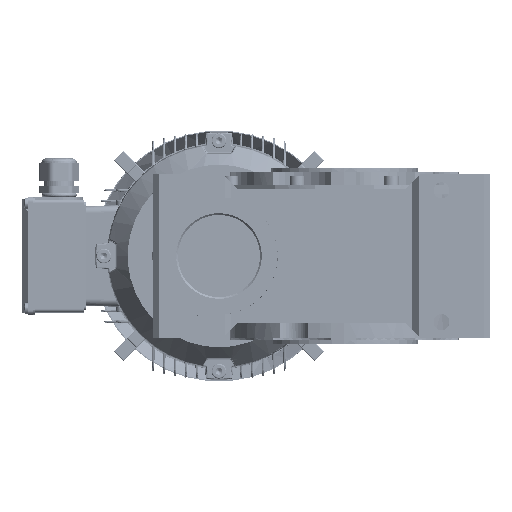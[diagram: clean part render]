
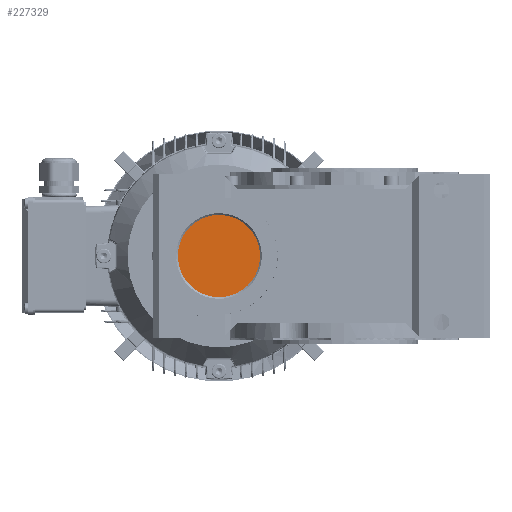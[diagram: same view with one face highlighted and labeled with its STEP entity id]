
A CAD part, left-side view. The second image highlights one B-rep face of the part: STEP entity #227329.
In plain terms, the highlighted planar face has unit normal (-1, 0, 0).
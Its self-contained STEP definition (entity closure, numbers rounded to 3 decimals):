
#1302 = CARTESIAN_POINT ( 'NONE',  ( -126., 74.23, 4.705 ) ) ;
#4189 = VERTEX_POINT ( 'NONE', #118341 ) ;
#5625 = CARTESIAN_POINT ( 'NONE',  ( -126., 137.128, 23.784 ) ) ;
#7232 = CARTESIAN_POINT ( 'NONE',  ( -126., 145.769, 4.705 ) ) ;
#11372 = FACE_OUTER_BOUND ( 'NONE', #251107, .T. ) ;
#16044 = CARTESIAN_POINT ( 'NONE',  ( -126., 94.039, -32.355 ) ) ;
#18429 = CARTESIAN_POINT ( 'NONE',  ( -126., 128.035, -31.246 ) ) ;
#19267 = CARTESIAN_POINT ( 'NONE',  ( -126., 77.645, -15.961 ) ) ;
#20012 = CARTESIAN_POINT ( 'NONE',  ( -126., 119.342, -34.847 ) ) ;
#29954 = CARTESIAN_POINT ( 'NONE',  ( -126., 121.592, 34.164 ) ) ;
#33117 = CARTESIAN_POINT ( 'NONE',  ( -126., 145.77, -4.705 ) ) ;
#38764 = CARTESIAN_POINT ( 'NONE',  ( -126., 74., 2.364 ) ) ;
#39525 = CARTESIAN_POINT ( 'NONE',  ( -126., 114.705, -35.769 ) ) ;
#42086 = DIRECTION ( 'NONE',  ( 0., 1., 0. ) ) ;
#42730 = CARTESIAN_POINT ( 'NONE',  ( -126., 121.592, -34.164 ) ) ;
#55286 = CARTESIAN_POINT ( 'NONE',  ( -126., 92., 0. ) ) ;
#57494 = CARTESIAN_POINT ( 'NONE',  ( -126., 146., -2.364 ) ) ;
#59088 = CARTESIAN_POINT ( 'NONE',  ( -126., 142.355, 15.961 ) ) ;
#63128 = CARTESIAN_POINT ( 'NONE',  ( -126., 75.836, -11.592 ) ) ;
#66356 = CARTESIAN_POINT ( 'NONE',  ( -126., 81.381, -21.966 ) ) ;
#67947 = CARTESIAN_POINT ( 'NONE',  ( -126., 86.216, -27.128 ) ) ;
#71166 = CARTESIAN_POINT ( 'NONE',  ( -126., 105.295, 35.769 ) ) ;
#72740 = CARTESIAN_POINT ( 'NONE',  ( -126., 78.754, 18.035 ) ) ;
#89815 = CARTESIAN_POINT ( 'NONE',  ( -126., 110., -36. ) ) ;
#95470 = CARTESIAN_POINT ( 'NONE',  ( -126., 98.408, 34.164 ) ) ;
#97062 = CARTESIAN_POINT ( 'NONE',  ( -126., 86.216, 27.128 ) ) ;
#100147 = EDGE_CURVE ( 'NONE', #311037, #4189, #231714, .T. ) ;
#106106 = CARTESIAN_POINT ( 'NONE',  ( -126., 146., 2.364 ) ) ;
#111757 = CARTESIAN_POINT ( 'NONE',  ( -126., 88.034, -28.619 ) ) ;
#112516 = CARTESIAN_POINT ( 'NONE',  ( -126., 131.966, -28.619 ) ) ;
#117305 = CARTESIAN_POINT ( 'NONE',  ( -126., 112.364, -36. ) ) ;
#118131 = CARTESIAN_POINT ( 'NONE',  ( -126., 75.153, -9.342 ) ) ;
#118341 = CARTESIAN_POINT ( 'NONE',  ( -126., 110., -36. ) ) ;
#128850 = CARTESIAN_POINT ( 'NONE',  ( -126., 131.966, 28.619 ) ) ;
#133624 = CARTESIAN_POINT ( 'NONE',  ( -126., 128.035, 31.246 ) ) ;
#138943 = B_SPLINE_CURVE_WITH_KNOTS ( 'NONE', 3,
 ( #189544, #238255, #288622, #192730, #291812, #16044, #213881, #111757, #67947, #312993, #66356, #168384, #19267, #63128, #118131, #217083, #261055, #38764, #1302, #293429, #244647, #246262, #72740, #296628, #152031, #97062, #173186, #298232, #221891, #95470, #174785, #71166, #295018, #176375 ),
 .UNSPECIFIED., .F., .F.,
 ( 4, 2, 2, 2, 2, 2, 2, 2, 2, 2, 2, 2, 2, 2, 2, 2, 4 ),
 ( 0., 0.063, 0.125, 0.188, 0.25, 0.313, 0.375, 0.438, 0.5, 0.563, 0.625, 0.688, 0.75, 0.813, 0.875, 0.938, 1. ),
 .UNSPECIFIED. ) ;
#152031 = CARTESIAN_POINT ( 'NONE',  ( -126., 82.872, 23.784 ) ) ;
#153167 = CARTESIAN_POINT ( 'NONE',  ( -126., 119.342, 34.847 ) ) ;
#154139 = DIRECTION ( 'NONE',  ( 1., 0., 0. ) ) ;
#154751 = CARTESIAN_POINT ( 'NONE',  ( -126., 144.164, 11.592 ) ) ;
#160503 = PLANE ( 'NONE',  #197891 ) ;
#168384 = CARTESIAN_POINT ( 'NONE',  ( -126., 78.754, -18.035 ) ) ;
#172090 = ORIENTED_EDGE ( 'NONE', *, *, #296136, .T. ) ;
#173186 = CARTESIAN_POINT ( 'NONE',  ( -126., 88.034, 28.619 ) ) ;
#174785 = CARTESIAN_POINT ( 'NONE',  ( -126., 100.658, 34.847 ) ) ;
#176375 = CARTESIAN_POINT ( 'NONE',  ( -126., 110., 36. ) ) ;
#189544 = CARTESIAN_POINT ( 'NONE',  ( -126., 110., -36. ) ) ;
#190287 = CARTESIAN_POINT ( 'NONE',  ( -126., 142.355, -15.961 ) ) ;
#192730 = CARTESIAN_POINT ( 'NONE',  ( -126., 100.658, -34.847 ) ) ;
#197891 = AXIS2_PLACEMENT_3D ( 'NONE', #55286, #154139, #42086 ) ;
#203426 = CARTESIAN_POINT ( 'NONE',  ( -126., 141.246, 18.035 ) ) ;
#211419 = CARTESIAN_POINT ( 'NONE',  ( -126., 133.784, -27.128 ) ) ;
#213881 = CARTESIAN_POINT ( 'NONE',  ( -126., 91.965, -31.246 ) ) ;
#217083 = CARTESIAN_POINT ( 'NONE',  ( -126., 74.231, -4.705 ) ) ;
#221891 = CARTESIAN_POINT ( 'NONE',  ( -126., 94.039, 32.355 ) ) ;
#227329 = ADVANCED_FACE ( 'NONE', ( #11372 ), #160503, .F. ) ;
#227802 = CARTESIAN_POINT ( 'NONE',  ( -126., 133.784, 27.128 ) ) ;
#231714 = B_SPLINE_CURVE_WITH_KNOTS ( 'NONE', 3,
 ( #234199, #276568, #281369, #153167, #29954, #279749, #133624, #128850, #227802, #5625, #255394, #203426, #59088, #154751, #253779, #7232, #106106, #57494, #33117, #261805, #240612, #190287, #289358, #237407, #284539, #211419, #112516, #18429, #235811, #42730, #20012, #39525, #117305, #89815 ),
 .UNSPECIFIED., .F., .F.,
 ( 4, 2, 2, 2, 2, 2, 2, 2, 2, 2, 2, 2, 2, 2, 2, 2, 4 ),
 ( 0., 0.062, 0.125, 0.187, 0.25, 0.312, 0.375, 0.437, 0.5, 0.563, 0.625, 0.688, 0.75, 0.812, 0.875, 0.937, 1. ),
 .UNSPECIFIED. ) ;
#234199 = CARTESIAN_POINT ( 'NONE',  ( -126., 110., 36. ) ) ;
#235811 = CARTESIAN_POINT ( 'NONE',  ( -126., 125.961, -32.355 ) ) ;
#237407 = CARTESIAN_POINT ( 'NONE',  ( -126., 138.619, -21.966 ) ) ;
#238255 = CARTESIAN_POINT ( 'NONE',  ( -126., 107.636, -36. ) ) ;
#240612 = CARTESIAN_POINT ( 'NONE',  ( -126., 144.164, -11.592 ) ) ;
#244647 = CARTESIAN_POINT ( 'NONE',  ( -126., 75.836, 11.592 ) ) ;
#246262 = CARTESIAN_POINT ( 'NONE',  ( -126., 77.645, 15.961 ) ) ;
#251107 = EDGE_LOOP ( 'NONE', ( #172090, #254497 ) ) ;
#253779 = CARTESIAN_POINT ( 'NONE',  ( -126., 144.847, 9.342 ) ) ;
#254497 = ORIENTED_EDGE ( 'NONE', *, *, #100147, .T. ) ;
#255394 = CARTESIAN_POINT ( 'NONE',  ( -126., 138.619, 21.966 ) ) ;
#261055 = CARTESIAN_POINT ( 'NONE',  ( -126., 74., -2.364 ) ) ;
#261805 = CARTESIAN_POINT ( 'NONE',  ( -126., 144.847, -9.342 ) ) ;
#276568 = CARTESIAN_POINT ( 'NONE',  ( -126., 112.364, 36. ) ) ;
#279749 = CARTESIAN_POINT ( 'NONE',  ( -126., 125.961, 32.355 ) ) ;
#281369 = CARTESIAN_POINT ( 'NONE',  ( -126., 114.705, 35.77 ) ) ;
#284539 = CARTESIAN_POINT ( 'NONE',  ( -126., 137.128, -23.784 ) ) ;
#284844 = CARTESIAN_POINT ( 'NONE',  ( -126., 110., 36. ) ) ;
#288622 = CARTESIAN_POINT ( 'NONE',  ( -126., 105.295, -35.77 ) ) ;
#289358 = CARTESIAN_POINT ( 'NONE',  ( -126., 141.246, -18.035 ) ) ;
#291812 = CARTESIAN_POINT ( 'NONE',  ( -126., 98.408, -34.164 ) ) ;
#293429 = CARTESIAN_POINT ( 'NONE',  ( -126., 75.153, 9.342 ) ) ;
#295018 = CARTESIAN_POINT ( 'NONE',  ( -126., 107.636, 36. ) ) ;
#296136 = EDGE_CURVE ( 'NONE', #4189, #311037, #138943, .T. ) ;
#296628 = CARTESIAN_POINT ( 'NONE',  ( -126., 81.381, 21.966 ) ) ;
#298232 = CARTESIAN_POINT ( 'NONE',  ( -126., 91.965, 31.246 ) ) ;
#311037 = VERTEX_POINT ( 'NONE', #284844 ) ;
#312993 = CARTESIAN_POINT ( 'NONE',  ( -126., 82.872, -23.784 ) ) ;
